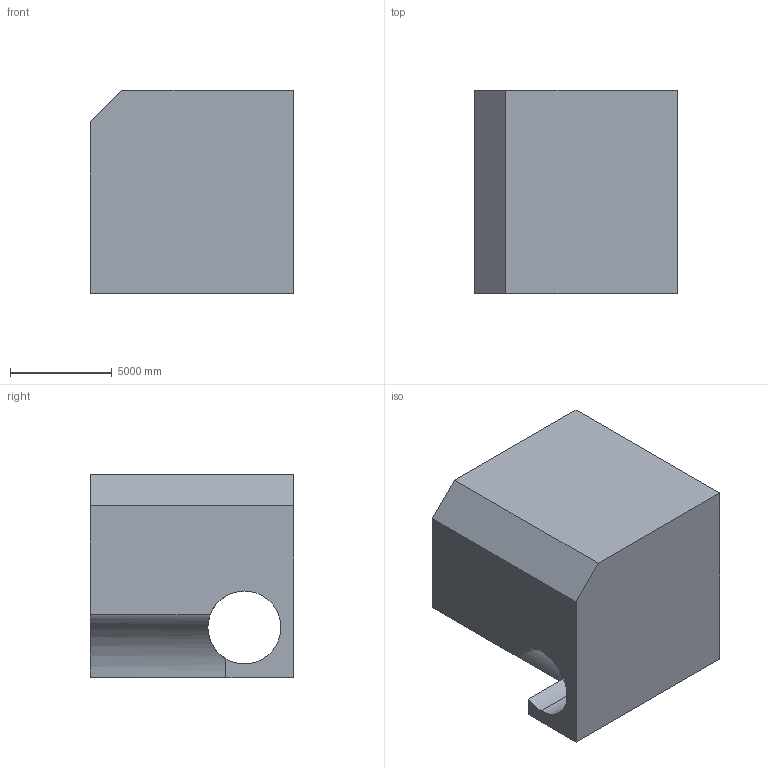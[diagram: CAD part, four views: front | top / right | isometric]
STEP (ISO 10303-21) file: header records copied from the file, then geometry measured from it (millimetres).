
FILE_DESCRIPTION (( 'STEP AP203' ), '1' );
FILE_NAME ('1356.STEP', '2022-08-18T14:01:09', ( 'user' ), ( '' ), 'SwSTEP 2.0', 'SolidWorks 2021', '' );
FILE_SCHEMA (( 'CONFIG_CONTROL_DESIGN' ));
Length unit declared in the file: centimetre
Products named in the file (1): 1356
Bounding box: 10000 x 10000 x 10000 mm (x, y, z)
Volume: 813639446050.9 mm3; surface area: 679563122.4 mm2
Topology: 1 solids, 1 shells, 16 faces, 45 edges, 30 vertices
Faces by surface type: plane 11, cylinder 5
Entity records: 688 total; most frequent: CARTESIAN_POINT 181, ORIENTED_EDGE 90, DIRECTION 89, EDGE_CURVE 45, LINE 33, VECTOR 33, VERTEX_POINT 30, AXIS2_PLACEMENT_3D 28
